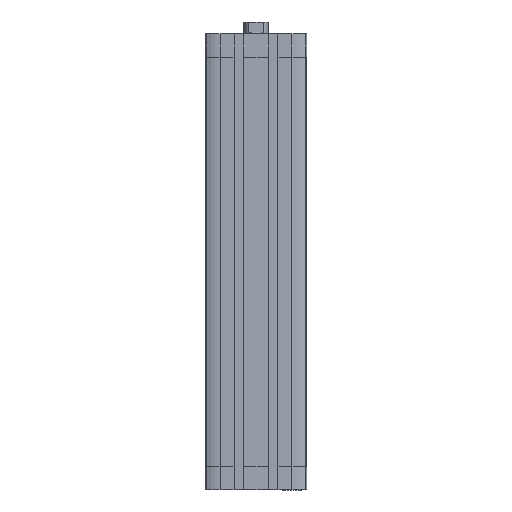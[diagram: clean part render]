
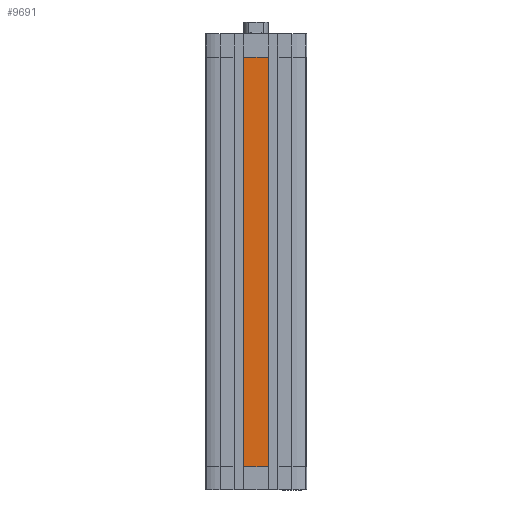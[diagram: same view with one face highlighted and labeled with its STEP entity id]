
A CAD part, front view. The second image highlights one B-rep face of the part: STEP entity #9691.
In plain terms, the highlighted planar face has unit normal (0, -1, 0).
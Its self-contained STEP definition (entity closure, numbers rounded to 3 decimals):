
#419 = CARTESIAN_POINT ( 'NONE',  ( -8., -32.5, -280. ) ) ;
#577 = CARTESIAN_POINT ( 'NONE',  ( -8., -32.5, -280. ) ) ;
#1428 = VECTOR ( 'NONE', #11830, 1000. ) ;
#1432 = VERTEX_POINT ( 'NONE', #419 ) ;
#2041 = VERTEX_POINT ( 'NONE', #13516 ) ;
#2547 = VECTOR ( 'NONE', #9218, 1000. ) ;
#2847 = CARTESIAN_POINT ( 'NONE',  ( -8., -32.5, -15. ) ) ;
#3012 = DIRECTION ( 'NONE',  ( 0., -1., 0. ) ) ;
#3203 = EDGE_CURVE ( 'NONE', #7901, #1432, #9174, .T. ) ;
#3301 = EDGE_CURVE ( 'NONE', #11374, #2041, #7710, .T. ) ;
#3614 = CARTESIAN_POINT ( 'NONE',  ( 8., -32.5, -280. ) ) ;
#3618 = DIRECTION ( 'NONE',  ( 1., 0., 0. ) ) ;
#4402 = AXIS2_PLACEMENT_3D ( 'NONE', #577, #3012, #11211 ) ;
#4505 = CARTESIAN_POINT ( 'NONE',  ( -8., -32.5, -280. ) ) ;
#4971 = ORIENTED_EDGE ( 'NONE', *, *, #3203, .T. ) ;
#5317 = PLANE ( 'NONE',  #4402 ) ;
#5762 = EDGE_LOOP ( 'NONE', ( #7086, #10638, #12651, #4971 ) ) ;
#7086 = ORIENTED_EDGE ( 'NONE', *, *, #10912, .T. ) ;
#7632 = LINE ( 'NONE', #15283, #10374 ) ;
#7710 = LINE ( 'NONE', #3614, #1428 ) ;
#7901 = VERTEX_POINT ( 'NONE', #2847 ) ;
#8766 = CARTESIAN_POINT ( 'NONE',  ( 0., -32.5, -15. ) ) ;
#8782 = LINE ( 'NONE', #8766, #9504 ) ;
#9174 = LINE ( 'NONE', #4505, #2547 ) ;
#9218 = DIRECTION ( 'NONE',  ( 0., 0., -1. ) ) ;
#9504 = VECTOR ( 'NONE', #11149, 1000. ) ;
#9691 = ADVANCED_FACE ( 'NONE', ( #10583 ), #5317, .T. ) ;
#10374 = VECTOR ( 'NONE', #3618, 1000. ) ;
#10583 = FACE_OUTER_BOUND ( 'NONE', #5762, .T. ) ;
#10638 = ORIENTED_EDGE ( 'NONE', *, *, #3301, .T. ) ;
#10912 = EDGE_CURVE ( 'NONE', #1432, #11374, #7632, .T. ) ;
#11149 = DIRECTION ( 'NONE',  ( -1., 0., 0. ) ) ;
#11211 = DIRECTION ( 'NONE',  ( 0., 0., -1. ) ) ;
#11374 = VERTEX_POINT ( 'NONE', #14145 ) ;
#11830 = DIRECTION ( 'NONE',  ( 0., 0., 1. ) ) ;
#12651 = ORIENTED_EDGE ( 'NONE', *, *, #13536, .T. ) ;
#13516 = CARTESIAN_POINT ( 'NONE',  ( 8., -32.5, -15. ) ) ;
#13536 = EDGE_CURVE ( 'NONE', #2041, #7901, #8782, .T. ) ;
#14145 = CARTESIAN_POINT ( 'NONE',  ( 8., -32.5, -280. ) ) ;
#15283 = CARTESIAN_POINT ( 'NONE',  ( -8., -32.5, -280. ) ) ;
